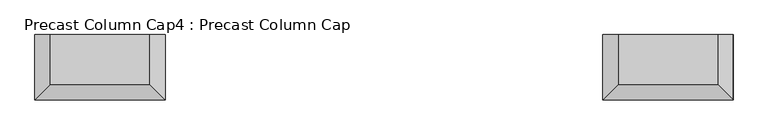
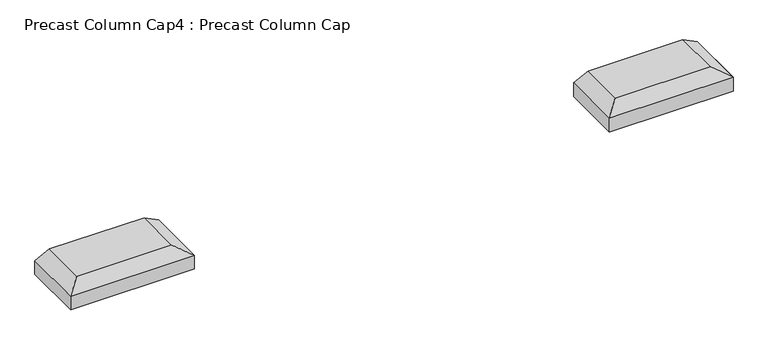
"""IFC4 building model written with IfcOpenShell, lengths in millimetres: proxy geometry, Precast Column Cap4 : Precast Column Cap."""

from ifc_helpers import new_model, si_unit, frame, origin, place, context, project, spatial, polyline, outline, extrude, faceted_brep, source, transform, mapped, element, save


def precast_column_cap4_precast_column_cap_0c692d38(model_context):
    return source(origin(), model_context, "Body", "SolidModel", [
        faceted_brep([(-8366.245413, -6257.7989595, 35306.0), (-9026.645413, -6257.7989595, 35306.0), (-9026.645413, -6587.9989595, 35306.0), (-8366.245413, -6587.9989595, 35306.0), (-8264.645413, -6257.7989595, 35255.2), (-8264.645413, -6689.5989595, 35255.2), (-9128.245413, -6689.5989595, 35255.2), (-9128.245413, -6257.7989595, 35255.2)], [[[0, 1, 2, 3]], [[4, 5, 6, 7]], [[4, 7, 1, 0]], [[7, 6, 2, 1]], [[6, 5, 3, 2]], [[5, 4, 0, 3]]]),
        extrude(outline(polyline([(-8264.645413, -6689.5989595), (-9128.245413, -6689.5989595), (-9128.245413, -6257.7989595), (-8264.645413, -6257.7989595), (-8264.645413, -6689.5989595)])), frame((0.0, 0.0, 35153.6), z_axis=(0.0, 0.0, 1.0), x_axis=(1.0, 0.0, 0.0)), (0.0, 0.0, 1.0), 101.6),
        faceted_brep([(-12125.435253, -6257.7989595, 35306.0), (-12785.835253, -6257.7989595, 35306.0), (-12785.835253, -6587.9989595, 35306.0), (-12125.435253, -6587.9989595, 35306.0), (-12023.835253, -6257.7989595, 35255.2), (-12023.835253, -6257.7989595, 35153.6), (-12887.435253, -6257.7989595, 35153.6), (-12887.435253, -6257.7989595, 35255.2), (-12887.435253, -6689.5989595, 35255.2), (-12023.835253, -6689.5989595, 35255.2), (-12023.835253, -6689.5989595, 35153.6), (-12887.435253, -6689.5989595, 35153.6)], [[[0, 1, 2, 3]], [[1, 0, 4, 5, 6, 7]], [[2, 1, 7, 8]], [[3, 2, 8, 9]], [[0, 3, 9, 4]], [[10, 11, 6, 5]], [[10, 5, 4, 9]], [[6, 11, 8, 7]], [[11, 10, 9, 8]]]),
    ])


if __name__ == "__main__":
    model = new_model("IFC4")
    model_context = context("Model", 3, world=origin())
    ifc_project = project(units=[si_unit("LENGTHUNIT", "METRE", prefix="MILLI")], contexts=[model_context])
    site = spatial("IfcSite", under=ifc_project)
    building = spatial("IfcBuilding", under=site)
    placement = place(None, origin())
    precast_column_cap4_precast_column_cap_shape = precast_column_cap4_precast_column_cap_0c692d38(model_context)
    element("IfcBuildingElementProxy", 1, Name="Precast Column Cap4 : Precast Column Cap", ObjectType="Precast Column Cap4 : Precast Column Cap", at=placement, inside=building, context=model_context, shape_type="MappedRepresentation", body=[
        mapped(precast_column_cap4_precast_column_cap_shape, transform((0.0, 0.0, 0.0), x_axis=(1.0, 0.0, 0.0), y_axis=(0.0, 1.0, 0.0), z_axis=(0.0, 0.0, 1.0))),
    ])
    save(model, "model.ifc")
